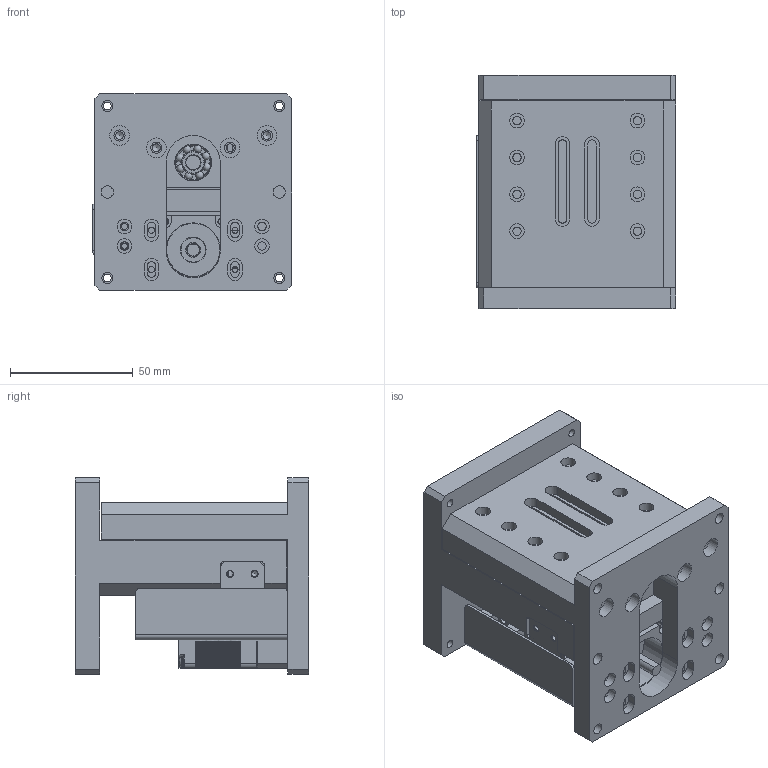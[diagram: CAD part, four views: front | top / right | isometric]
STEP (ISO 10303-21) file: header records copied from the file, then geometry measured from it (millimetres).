
FILE_DESCRIPTION(/* description */ (''),/* implementation_level */ '2;1');
FILE_NAME(/* name */ '',/* time_stamp */ '2025-08-01T17:44:45+08:00',/* author */ ('陈豪'),/* organization */ (''),/* preprocessor_version */ 'ST-DEVELOPER v19.2',/* originating_system */ 'Autodesk Inventor 2024',/* authorisation */ '');
FILE_SCHEMA (('AUTOMOTIVE_DESIGN { 1 0 10303 214 3 1 1 }','AP242_MANAGED_MODEL_BASED_3D_ENGINEERING_MIM_LF { 1 0 10303 442 3 1 4 }'));
Products named in the file (3): 部件1; JMSZ-80（定制30行程）_简化_
1; JMSZ-80（定制30行程）_简化_
1_1
Assembly tree (2 placements, depth 2):
  部件1
    JMSZ-80（定制30行程）_简化_
1
    JMSZ-80（定制30行程）_简化_
1_1
Bounding box: 81 x 95 x 80 mm (x, y, z)
Volume: 304601.1 mm3; surface area: 97565.7 mm2
Topology: 19 solids, 19 shells, 3495 faces, 7523 edges, 4132 vertices
Faces by surface type: cylinder 1523, plane 916, torus 810, bspline 166, sphere 48, cone 32
Full cylindrical faces by diameter (mm): 2.013 x9, 2.459 x16, 2.5 x6, 2.9 x10, 3.242 x16, 3.4 x28, 4.2 x4, 4.5 x12, 5 x6, 6 x29, 8 x8, 9 x1, 9.5 x3, 10 x3, 13.5 x1, 15 x2, 22 x1
Entity records: 96784 total; most frequent: CARTESIAN_POINT 19791, DIRECTION 17723, ORIENTED_EDGE 14956, EDGE_CURVE 7478, AXIS2_PLACEMENT_3D 7134, VERTEX_POINT 4132, EDGE_LOOP 3737, CIRCLE 3704
